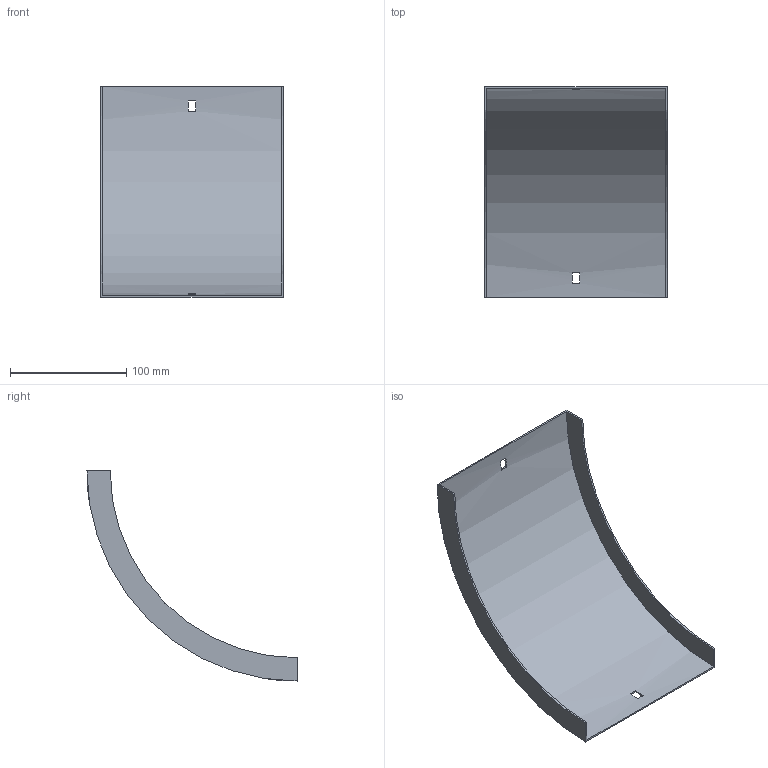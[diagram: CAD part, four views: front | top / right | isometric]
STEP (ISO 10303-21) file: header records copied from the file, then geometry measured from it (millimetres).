
FILE_DESCRIPTION (( 'STEP AP214' ), '1' );
FILE_NAME ('33N1C150.step', '2025-02-21T09:19:01', ( '' ), ( '' ), 'SwSTEP 2.0', 'SolidWorks 2023', '' );
FILE_SCHEMA (( 'AUTOMOTIVE_DESIGN' ));
Length unit declared in the file: millimetre
Products named in the file (1): 33N1C150
Bounding box: 157 x 180.5 x 180.5 mm (x, y, z)
Volume: 81116 mm3; surface area: 109589.9 mm2
Topology: 1 solids, 1 shells, 18 faces, 48 edges, 32 vertices
Faces by surface type: plane 14, cylinder 4
Entity records: 599 total; most frequent: DIRECTION 102, CARTESIAN_POINT 99, ORIENTED_EDGE 96, EDGE_CURVE 48, AXIS2_PLACEMENT_3D 35, VERTEX_POINT 32, LINE 32, VECTOR 32
